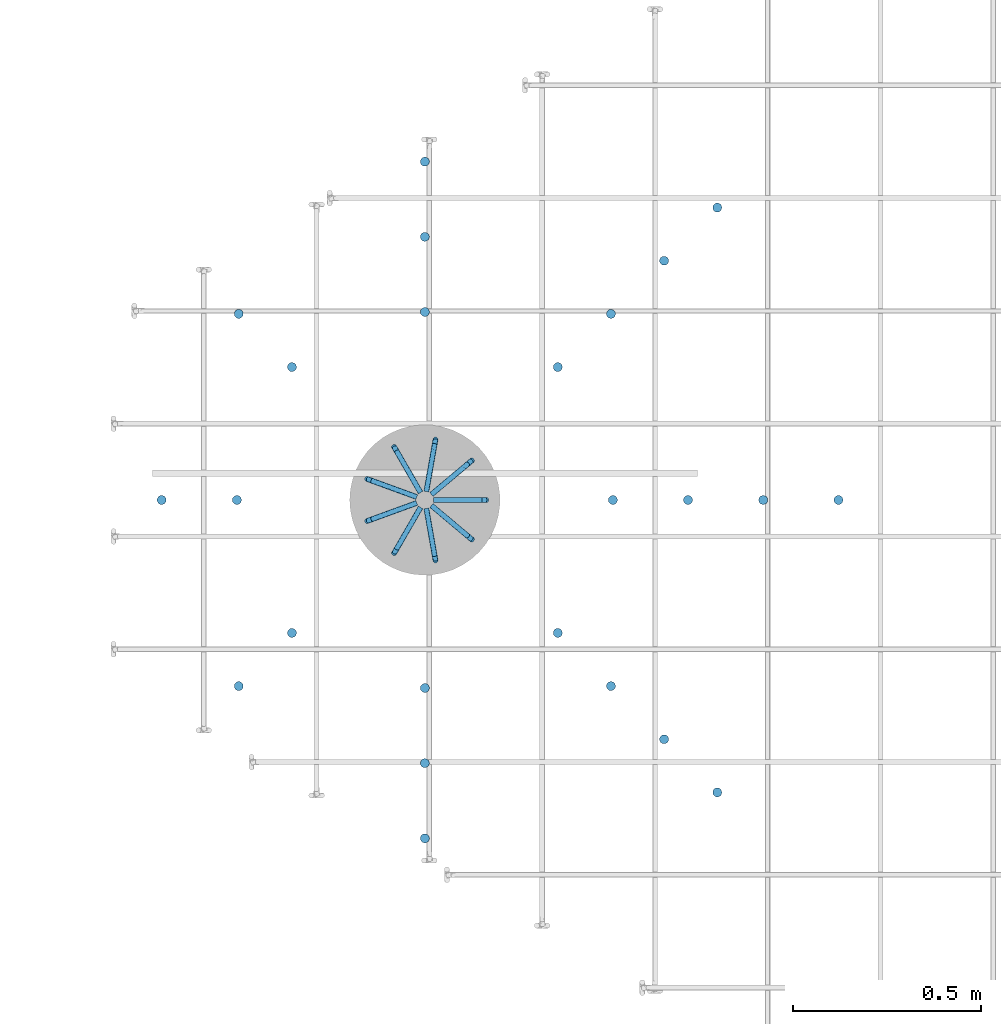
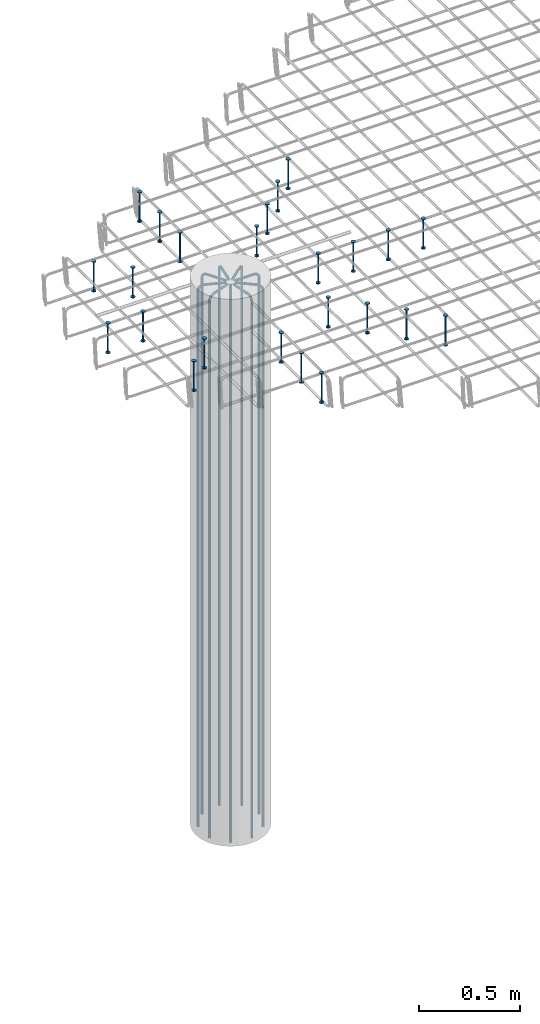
# One storey, part 19 of 24: 2 reinforcing bars.
"""IFC2X3 building model written with IfcOpenShell, lengths in metres."""

from ifc_helpers import new_model, entity, si_unit, direction, frame, origin, place, context, subcontext, project, spatial, shape, source, transform, mapped, element, save


model = new_model("IFC2X3")

# Units and contexts
model_context = context("Model", 3, precision=0.0, world=origin(), true_north=direction((0.0, 1.0)))
plan_context = context("Plan", 3, precision=0.0, world=origin(), true_north=direction((0.0, 1.0)))
body_context = subcontext(model_context, "Body", "Model", "MODEL_VIEW", scale=1.0)
ifc_project = project(units=[si_unit("LENGTHUNIT", "METRE"), si_unit("AREAUNIT", "SQUARE_METRE"), si_unit("VOLUMEUNIT", "CUBIC_METRE"), si_unit("PLANEANGLEUNIT", "RADIAN"), si_unit("THERMODYNAMICTEMPERATUREUNIT", "DEGREE_CELSIUS"), si_unit("FORCEUNIT", "NEWTON"), si_unit("MASSUNIT", "GRAM", prefix="KILO")], contexts=[model_context, plan_context])

# Site, building, storey
placement = place(None, origin())
site = spatial("IfcSite", under=ifc_project, at=placement, Name="Default Site", CompositionType="ELEMENT")
building = spatial("IfcBuilding", under=site, at=placement, Name="Default Building", CompositionType="ELEMENT")
storey_placement = place(placement, frame((0.0, 0.0, 3.3), z_axis=(1.0, 0.0, 0.0), x_axis=(0.0, 0.0, 1.0)))
storey = spatial("IfcBuildingStorey", under=building, at=storey_placement, Name="Piano 2", CompositionType="ELEMENT", Elevation=3.3)

# Reinforcing bars
shared_shape_1 = source(origin(), body_context, None, "AdvancedSweptSolid", [
    entity("IfcSweptDiskSolid", entity("IfcCompositeCurve", [entity("IfcCompositeCurveSegment", "CONTINUOUS", True, entity("IfcPolyline", [entity("IfcCartesianPoint", [0.0, 0.0, 0.0]), entity("IfcCartesianPoint", [0.0, 0.0, 3.237]), entity("IfcCartesianPoint", [-0.003751, 0.0, 3.251]), entity("IfcCartesianPoint", [-0.014, 0.0, 3.261249]), entity("IfcCartesianPoint", [-0.028, 0.0, 3.265]), entity("IfcCartesianPoint", [-0.14, 0.0, 3.265])]))], False), 0.007, 0.0, 0.0),
])
shared_shape_2 = source(origin(), body_context, None, "MappedRepresentation", [mapped(shared_shape_1, transform((22.162754, 3.0, 0.0)))])
shared_shape_3 = source(origin(), body_context, None, "AdvancedSweptSolid", [
    entity("IfcSweptDiskSolid", entity("IfcCompositeCurve", [entity("IfcCompositeCurveSegment", "CONTINUOUS", True, entity("IfcPolyline", [entity("IfcCartesianPoint", [0.0, 0.0, 0.0]), entity("IfcCartesianPoint", [0.0, 0.0, 3.237]), entity("IfcCartesianPoint", [-0.002874, -0.002411, 3.251]), entity("IfcCartesianPoint", [-0.010725, -0.008999, 3.261249]), entity("IfcCartesianPoint", [-0.021449, -0.017998, 3.265]), entity("IfcCartesianPoint", [-0.107246, -0.08999, 3.265])]))], False), 0.007, 0.0, 0.0),
])
shared_shape_4 = source(origin(), body_context, None, "MappedRepresentation", [mapped(shared_shape_3, transform((22.124677, 3.104616, 0.0)))])
shared_shape_5 = source(origin(), body_context, None, "AdvancedSweptSolid", [
    entity("IfcSweptDiskSolid", entity("IfcCompositeCurve", [entity("IfcCompositeCurveSegment", "CONTINUOUS", True, entity("IfcPolyline", [entity("IfcCartesianPoint", [0.0, 0.0, 0.0]), entity("IfcCartesianPoint", [0.0, 0.0, 3.237]), entity("IfcCartesianPoint", [-0.000651, -0.003694, 3.251]), entity("IfcCartesianPoint", [-0.002431, -0.013787, 3.261249]), entity("IfcCartesianPoint", [-0.004862, -0.027575, 3.265]), entity("IfcCartesianPoint", [-0.024311, -0.137873, 3.265])]))], False), 0.007, 0.0, 0.0),
])
shared_shape_6 = source(origin(), body_context, None, "MappedRepresentation", [mapped(shared_shape_5, transform((22.028262, 3.160281, 0.0)))])
shared_shape_7 = source(origin(), body_context, None, "AdvancedSweptSolid", [
    entity("IfcSweptDiskSolid", entity("IfcCompositeCurve", [entity("IfcCompositeCurveSegment", "CONTINUOUS", True, entity("IfcPolyline", [entity("IfcCartesianPoint", [0.0, 0.0, 0.0]), entity("IfcCartesianPoint", [0.0, 0.0, 3.237]), entity("IfcCartesianPoint", [0.001876, -0.003249, 3.251]), entity("IfcCartesianPoint", [0.007, -0.012124, 3.261249]), entity("IfcCartesianPoint", [0.014, -0.024249, 3.265]), entity("IfcCartesianPoint", [0.07, -0.121244, 3.265])]))], False), 0.007, 0.0, 0.0),
])
shared_shape_8 = source(origin(), body_context, None, "MappedRepresentation", [mapped(shared_shape_7, transform((21.918623, 3.140949, 0.0)))])
shared_shape_9 = source(origin(), body_context, None, "AdvancedSweptSolid", [
    entity("IfcSweptDiskSolid", entity("IfcCompositeCurve", [entity("IfcCompositeCurveSegment", "CONTINUOUS", True, entity("IfcPolyline", [entity("IfcCartesianPoint", [0.0, 0.0, 0.0]), entity("IfcCartesianPoint", [0.0, 0.0, 3.237]), entity("IfcCartesianPoint", [0.003525, -0.001283, 3.251]), entity("IfcCartesianPoint", [0.013156, -0.004788, 3.261249]), entity("IfcCartesianPoint", [0.026311, -0.009577, 3.265]), entity("IfcCartesianPoint", [0.131557, -0.047883, 3.265])]))], False), 0.007, 0.0, 0.0),
])
shared_shape_10 = source(origin(), body_context, None, "MappedRepresentation", [mapped(shared_shape_9, transform((21.847061, 3.055665, 0.0)))])
shared_shape_11 = source(origin(), body_context, None, "AdvancedSweptSolid", [
    entity("IfcSweptDiskSolid", entity("IfcCompositeCurve", [entity("IfcCompositeCurveSegment", "CONTINUOUS", True, entity("IfcPolyline", [entity("IfcCartesianPoint", [0.0, 0.0, 0.0]), entity("IfcCartesianPoint", [0.0, 0.0, 3.237]), entity("IfcCartesianPoint", [0.003525, 0.001283, 3.251]), entity("IfcCartesianPoint", [0.013156, 0.004788, 3.261249]), entity("IfcCartesianPoint", [0.026311, 0.009577, 3.265]), entity("IfcCartesianPoint", [0.131557, 0.047883, 3.265])]))], False), 0.007, 0.0, 0.0),
])
shared_shape_12 = source(origin(), body_context, None, "MappedRepresentation", [mapped(shared_shape_11, transform((21.847061, 2.944335, 0.0)))])
shared_shape_13 = source(origin(), body_context, None, "AdvancedSweptSolid", [
    entity("IfcSweptDiskSolid", entity("IfcCompositeCurve", [entity("IfcCompositeCurveSegment", "CONTINUOUS", True, entity("IfcPolyline", [entity("IfcCartesianPoint", [0.0, 0.0, 0.0]), entity("IfcCartesianPoint", [0.0, 0.0, 3.237]), entity("IfcCartesianPoint", [0.001876, 0.003249, 3.251]), entity("IfcCartesianPoint", [0.007, 0.012124, 3.261249]), entity("IfcCartesianPoint", [0.014, 0.024249, 3.265]), entity("IfcCartesianPoint", [0.07, 0.121244, 3.265])]))], False), 0.007, 0.0, 0.0),
])
shared_shape_14 = source(origin(), body_context, None, "MappedRepresentation", [mapped(shared_shape_13, transform((21.918623, 2.859051, 0.0)))])
shared_shape_15 = source(origin(), body_context, None, "AdvancedSweptSolid", [
    entity("IfcSweptDiskSolid", entity("IfcCompositeCurve", [entity("IfcCompositeCurveSegment", "CONTINUOUS", True, entity("IfcPolyline", [entity("IfcCartesianPoint", [0.0, 0.0, 0.0]), entity("IfcCartesianPoint", [0.0, 0.0, 3.237]), entity("IfcCartesianPoint", [-0.000651, 0.003694, 3.251]), entity("IfcCartesianPoint", [-0.002431, 0.013787, 3.261249]), entity("IfcCartesianPoint", [-0.004862, 0.027575, 3.265]), entity("IfcCartesianPoint", [-0.024311, 0.137873, 3.265])]))], False), 0.007, 0.0, 0.0),
])
shared_shape_16 = source(origin(), body_context, None, "MappedRepresentation", [mapped(shared_shape_15, transform((22.028262, 2.839719, 0.0)))])
shared_shape_17 = source(origin(), body_context, None, "AdvancedSweptSolid", [
    entity("IfcSweptDiskSolid", entity("IfcCompositeCurve", [entity("IfcCompositeCurveSegment", "CONTINUOUS", True, entity("IfcPolyline", [entity("IfcCartesianPoint", [0.0, 0.0, 0.0]), entity("IfcCartesianPoint", [0.0, 0.0, 3.237]), entity("IfcCartesianPoint", [-0.002874, 0.002411, 3.251]), entity("IfcCartesianPoint", [-0.010725, 0.008999, 3.261249]), entity("IfcCartesianPoint", [-0.021449, 0.017998, 3.265]), entity("IfcCartesianPoint", [-0.107246, 0.08999, 3.265])]))], False), 0.007, 0.0, 0.0),
])
shared_shape_18 = source(origin(), body_context, None, "MappedRepresentation", [mapped(shared_shape_17, transform((22.124677, 2.895384, 0.0)))])
element("IfcReinforcingBar", 1, at=placement, inside=storey, Name="Arm Principale; Pilastro:17 [Piano:2]", BarLength=30.544853, BarRole="MAIN", BarSurface="TEXTURED", NominalDiameter=0.014, shapes=[
    shape(body_context, None, "MappedRepresentation", [mapped(shared_shape_2, transform((0.0, 0.0, 0.0))), mapped(shared_shape_4, transform((0.0, 0.0, 0.0))), mapped(shared_shape_6, transform((0.0, 0.0, 0.0))), mapped(shared_shape_8, transform((0.0, 0.0, 0.0))), mapped(shared_shape_10, transform((0.0, 0.0, 0.0))), mapped(shared_shape_12, transform((0.0, 0.0, 0.0))), mapped(shared_shape_14, transform((0.0, 0.0, 0.0))), mapped(shared_shape_16, transform((0.0, 0.0, 0.0))), mapped(shared_shape_18, transform((0.0, 0.0, 0.0)))]),
])
shared_shape_19 = source(origin(), body_context, None, "AdvancedSweptSolid", [
    entity("IfcSweptDiskSolid", entity("IfcCompositeCurve", [entity("IfcCompositeCurveSegment", "CONTINUOUS", True, entity("IfcPolyline", [entity("IfcCartesianPoint", [0.0, 0.0, 0.0]), entity("IfcCartesianPoint", [0.0, 0.0, -0.174])]))], False), 0.004, 0.0, 0.0),
    entity("IfcSweptDiskSolid", entity("IfcCompositeCurve", [entity("IfcCompositeCurveSegment", "CONTINUOUS", True, entity("IfcPolyline", [entity("IfcCartesianPoint", [0.0, 0.0, 0.0]), entity("IfcCartesianPoint", [0.0, 0.0, 0.004])]))], False), 0.012, 0.0, 0.0),
    entity("IfcSweptDiskSolid", entity("IfcCompositeCurve", [entity("IfcCompositeCurveSegment", "CONTINUOUS", True, entity("IfcPolyline", [entity("IfcCartesianPoint", [0.0, 0.0, -0.174]), entity("IfcCartesianPoint", [0.0, 0.0, -0.178])]))], False), 0.012, 0.0, 0.0),
])
shared_shape_20 = source(origin(), body_context, None, "MappedRepresentation", [mapped(shared_shape_19, transform((22.5, 3.0, 3.262)))])
shared_shape_21 = source(origin(), body_context, None, "AdvancedSweptSolid", [
    entity("IfcSweptDiskSolid", entity("IfcCompositeCurve", [entity("IfcCompositeCurveSegment", "CONTINUOUS", True, entity("IfcPolyline", [entity("IfcCartesianPoint", [0.0, 0.0, 0.0]), entity("IfcCartesianPoint", [0.0, 0.0, -0.174])]))], False), 0.004, 0.0, 0.0),
    entity("IfcSweptDiskSolid", entity("IfcCompositeCurve", [entity("IfcCompositeCurveSegment", "CONTINUOUS", True, entity("IfcPolyline", [entity("IfcCartesianPoint", [0.0, 0.0, 0.0]), entity("IfcCartesianPoint", [0.0, 0.0, 0.004])]))], False), 0.012, 0.0, 0.0),
    entity("IfcSweptDiskSolid", entity("IfcCompositeCurve", [entity("IfcCompositeCurveSegment", "CONTINUOUS", True, entity("IfcPolyline", [entity("IfcCartesianPoint", [0.0, 0.0, -0.174]), entity("IfcCartesianPoint", [0.0, 0.0, -0.178])]))], False), 0.012, 0.0, 0.0),
])
shared_shape_22 = source(origin(), body_context, None, "MappedRepresentation", [mapped(shared_shape_21, transform((22.353553, 3.353553, 3.262)))])
shared_shape_23 = source(origin(), body_context, None, "AdvancedSweptSolid", [
    entity("IfcSweptDiskSolid", entity("IfcCompositeCurve", [entity("IfcCompositeCurveSegment", "CONTINUOUS", True, entity("IfcPolyline", [entity("IfcCartesianPoint", [0.0, 0.0, 0.0]), entity("IfcCartesianPoint", [0.0, 0.0, -0.174])]))], False), 0.004, 0.0, 0.0),
    entity("IfcSweptDiskSolid", entity("IfcCompositeCurve", [entity("IfcCompositeCurveSegment", "CONTINUOUS", True, entity("IfcPolyline", [entity("IfcCartesianPoint", [0.0, 0.0, 0.0]), entity("IfcCartesianPoint", [0.0, 0.0, 0.004])]))], False), 0.012, 0.0, 0.0),
    entity("IfcSweptDiskSolid", entity("IfcCompositeCurve", [entity("IfcCompositeCurveSegment", "CONTINUOUS", True, entity("IfcPolyline", [entity("IfcCartesianPoint", [0.0, 0.0, -0.174]), entity("IfcCartesianPoint", [0.0, 0.0, -0.178])]))], False), 0.012, 0.0, 0.0),
])
shared_shape_24 = source(origin(), body_context, None, "MappedRepresentation", [mapped(shared_shape_23, transform((22.0, 3.5, 3.262)))])
shared_shape_25 = source(origin(), body_context, None, "AdvancedSweptSolid", [
    entity("IfcSweptDiskSolid", entity("IfcCompositeCurve", [entity("IfcCompositeCurveSegment", "CONTINUOUS", True, entity("IfcPolyline", [entity("IfcCartesianPoint", [0.0, 0.0, 0.0]), entity("IfcCartesianPoint", [0.0, 0.0, -0.174])]))], False), 0.004, 0.0, 0.0),
    entity("IfcSweptDiskSolid", entity("IfcCompositeCurve", [entity("IfcCompositeCurveSegment", "CONTINUOUS", True, entity("IfcPolyline", [entity("IfcCartesianPoint", [0.0, 0.0, 0.0]), entity("IfcCartesianPoint", [0.0, 0.0, 0.004])]))], False), 0.012, 0.0, 0.0),
    entity("IfcSweptDiskSolid", entity("IfcCompositeCurve", [entity("IfcCompositeCurveSegment", "CONTINUOUS", True, entity("IfcPolyline", [entity("IfcCartesianPoint", [0.0, 0.0, -0.174]), entity("IfcCartesianPoint", [0.0, 0.0, -0.178])]))], False), 0.012, 0.0, 0.0),
])
shared_shape_26 = source(origin(), body_context, None, "MappedRepresentation", [mapped(shared_shape_25, transform((21.646447, 3.353553, 3.262)))])
shared_shape_27 = source(origin(), body_context, None, "AdvancedSweptSolid", [
    entity("IfcSweptDiskSolid", entity("IfcCompositeCurve", [entity("IfcCompositeCurveSegment", "CONTINUOUS", True, entity("IfcPolyline", [entity("IfcCartesianPoint", [0.0, 0.0, 0.0]), entity("IfcCartesianPoint", [0.0, 0.0, -0.174])]))], False), 0.004, 0.0, 0.0),
    entity("IfcSweptDiskSolid", entity("IfcCompositeCurve", [entity("IfcCompositeCurveSegment", "CONTINUOUS", True, entity("IfcPolyline", [entity("IfcCartesianPoint", [0.0, 0.0, 0.0]), entity("IfcCartesianPoint", [0.0, 0.0, 0.004])]))], False), 0.012, 0.0, 0.0),
    entity("IfcSweptDiskSolid", entity("IfcCompositeCurve", [entity("IfcCompositeCurveSegment", "CONTINUOUS", True, entity("IfcPolyline", [entity("IfcCartesianPoint", [0.0, 0.0, -0.174]), entity("IfcCartesianPoint", [0.0, 0.0, -0.178])]))], False), 0.012, 0.0, 0.0),
])
shared_shape_28 = source(origin(), body_context, None, "MappedRepresentation", [mapped(shared_shape_27, transform((21.5, 3.0, 3.262)))])
shared_shape_29 = source(origin(), body_context, None, "AdvancedSweptSolid", [
    entity("IfcSweptDiskSolid", entity("IfcCompositeCurve", [entity("IfcCompositeCurveSegment", "CONTINUOUS", True, entity("IfcPolyline", [entity("IfcCartesianPoint", [0.0, 0.0, 0.0]), entity("IfcCartesianPoint", [0.0, 0.0, -0.174])]))], False), 0.004, 0.0, 0.0),
    entity("IfcSweptDiskSolid", entity("IfcCompositeCurve", [entity("IfcCompositeCurveSegment", "CONTINUOUS", True, entity("IfcPolyline", [entity("IfcCartesianPoint", [0.0, 0.0, 0.0]), entity("IfcCartesianPoint", [0.0, 0.0, 0.004])]))], False), 0.012, 0.0, 0.0),
    entity("IfcSweptDiskSolid", entity("IfcCompositeCurve", [entity("IfcCompositeCurveSegment", "CONTINUOUS", True, entity("IfcPolyline", [entity("IfcCartesianPoint", [0.0, 0.0, -0.174]), entity("IfcCartesianPoint", [0.0, 0.0, -0.178])]))], False), 0.012, 0.0, 0.0),
])
shared_shape_30 = source(origin(), body_context, None, "MappedRepresentation", [mapped(shared_shape_29, transform((21.646447, 2.646447, 3.262)))])
shared_shape_31 = source(origin(), body_context, None, "AdvancedSweptSolid", [
    entity("IfcSweptDiskSolid", entity("IfcCompositeCurve", [entity("IfcCompositeCurveSegment", "CONTINUOUS", True, entity("IfcPolyline", [entity("IfcCartesianPoint", [0.0, 0.0, 0.0]), entity("IfcCartesianPoint", [0.0, 0.0, -0.174])]))], False), 0.004, 0.0, 0.0),
    entity("IfcSweptDiskSolid", entity("IfcCompositeCurve", [entity("IfcCompositeCurveSegment", "CONTINUOUS", True, entity("IfcPolyline", [entity("IfcCartesianPoint", [0.0, 0.0, 0.0]), entity("IfcCartesianPoint", [0.0, 0.0, 0.004])]))], False), 0.012, 0.0, 0.0),
    entity("IfcSweptDiskSolid", entity("IfcCompositeCurve", [entity("IfcCompositeCurveSegment", "CONTINUOUS", True, entity("IfcPolyline", [entity("IfcCartesianPoint", [0.0, 0.0, -0.174]), entity("IfcCartesianPoint", [0.0, 0.0, -0.178])]))], False), 0.012, 0.0, 0.0),
])
shared_shape_32 = source(origin(), body_context, None, "MappedRepresentation", [mapped(shared_shape_31, transform((22.0, 2.5, 3.262)))])
shared_shape_33 = source(origin(), body_context, None, "AdvancedSweptSolid", [
    entity("IfcSweptDiskSolid", entity("IfcCompositeCurve", [entity("IfcCompositeCurveSegment", "CONTINUOUS", True, entity("IfcPolyline", [entity("IfcCartesianPoint", [0.0, 0.0, 0.0]), entity("IfcCartesianPoint", [0.0, 0.0, -0.174])]))], False), 0.004, 0.0, 0.0),
    entity("IfcSweptDiskSolid", entity("IfcCompositeCurve", [entity("IfcCompositeCurveSegment", "CONTINUOUS", True, entity("IfcPolyline", [entity("IfcCartesianPoint", [0.0, 0.0, 0.0]), entity("IfcCartesianPoint", [0.0, 0.0, 0.004])]))], False), 0.012, 0.0, 0.0),
    entity("IfcSweptDiskSolid", entity("IfcCompositeCurve", [entity("IfcCompositeCurveSegment", "CONTINUOUS", True, entity("IfcPolyline", [entity("IfcCartesianPoint", [0.0, 0.0, -0.174]), entity("IfcCartesianPoint", [0.0, 0.0, -0.178])]))], False), 0.012, 0.0, 0.0),
])
shared_shape_34 = source(origin(), body_context, None, "MappedRepresentation", [mapped(shared_shape_33, transform((22.353553, 2.646447, 3.262)))])
shared_shape_35 = source(origin(), body_context, None, "AdvancedSweptSolid", [
    entity("IfcSweptDiskSolid", entity("IfcCompositeCurve", [entity("IfcCompositeCurveSegment", "CONTINUOUS", True, entity("IfcPolyline", [entity("IfcCartesianPoint", [0.0, 0.0, 0.0]), entity("IfcCartesianPoint", [0.0, 0.0, -0.174])]))], False), 0.004, 0.0, 0.0),
    entity("IfcSweptDiskSolid", entity("IfcCompositeCurve", [entity("IfcCompositeCurveSegment", "CONTINUOUS", True, entity("IfcPolyline", [entity("IfcCartesianPoint", [0.0, 0.0, 0.0]), entity("IfcCartesianPoint", [0.0, 0.0, 0.004])]))], False), 0.012, 0.0, 0.0),
    entity("IfcSweptDiskSolid", entity("IfcCompositeCurve", [entity("IfcCompositeCurveSegment", "CONTINUOUS", True, entity("IfcPolyline", [entity("IfcCartesianPoint", [0.0, 0.0, -0.174]), entity("IfcCartesianPoint", [0.0, 0.0, -0.178])]))], False), 0.012, 0.0, 0.0),
])
shared_shape_36 = source(origin(), body_context, None, "MappedRepresentation", [mapped(shared_shape_35, transform((22.7, 3.0, 3.262)))])
shared_shape_37 = source(origin(), body_context, None, "AdvancedSweptSolid", [
    entity("IfcSweptDiskSolid", entity("IfcCompositeCurve", [entity("IfcCompositeCurveSegment", "CONTINUOUS", True, entity("IfcPolyline", [entity("IfcCartesianPoint", [0.0, 0.0, 0.0]), entity("IfcCartesianPoint", [0.0, 0.0, -0.174])]))], False), 0.004, 0.0, 0.0),
    entity("IfcSweptDiskSolid", entity("IfcCompositeCurve", [entity("IfcCompositeCurveSegment", "CONTINUOUS", True, entity("IfcPolyline", [entity("IfcCartesianPoint", [0.0, 0.0, 0.0]), entity("IfcCartesianPoint", [0.0, 0.0, 0.004])]))], False), 0.012, 0.0, 0.0),
    entity("IfcSweptDiskSolid", entity("IfcCompositeCurve", [entity("IfcCompositeCurveSegment", "CONTINUOUS", True, entity("IfcPolyline", [entity("IfcCartesianPoint", [0.0, 0.0, -0.174]), entity("IfcCartesianPoint", [0.0, 0.0, -0.178])]))], False), 0.012, 0.0, 0.0),
])
shared_shape_38 = source(origin(), body_context, None, "MappedRepresentation", [mapped(shared_shape_37, transform((22.494975, 3.494975, 3.262)))])
shared_shape_39 = source(origin(), body_context, None, "AdvancedSweptSolid", [
    entity("IfcSweptDiskSolid", entity("IfcCompositeCurve", [entity("IfcCompositeCurveSegment", "CONTINUOUS", True, entity("IfcPolyline", [entity("IfcCartesianPoint", [0.0, 0.0, 0.0]), entity("IfcCartesianPoint", [0.0, 0.0, -0.174])]))], False), 0.004, 0.0, 0.0),
    entity("IfcSweptDiskSolid", entity("IfcCompositeCurve", [entity("IfcCompositeCurveSegment", "CONTINUOUS", True, entity("IfcPolyline", [entity("IfcCartesianPoint", [0.0, 0.0, 0.0]), entity("IfcCartesianPoint", [0.0, 0.0, 0.004])]))], False), 0.012, 0.0, 0.0),
    entity("IfcSweptDiskSolid", entity("IfcCompositeCurve", [entity("IfcCompositeCurveSegment", "CONTINUOUS", True, entity("IfcPolyline", [entity("IfcCartesianPoint", [0.0, 0.0, -0.174]), entity("IfcCartesianPoint", [0.0, 0.0, -0.178])]))], False), 0.012, 0.0, 0.0),
])
shared_shape_40 = source(origin(), body_context, None, "MappedRepresentation", [mapped(shared_shape_39, transform((22.0, 3.7, 3.262)))])
shared_shape_41 = source(origin(), body_context, None, "AdvancedSweptSolid", [
    entity("IfcSweptDiskSolid", entity("IfcCompositeCurve", [entity("IfcCompositeCurveSegment", "CONTINUOUS", True, entity("IfcPolyline", [entity("IfcCartesianPoint", [0.0, 0.0, 0.0]), entity("IfcCartesianPoint", [0.0, 0.0, -0.174])]))], False), 0.004, 0.0, 0.0),
    entity("IfcSweptDiskSolid", entity("IfcCompositeCurve", [entity("IfcCompositeCurveSegment", "CONTINUOUS", True, entity("IfcPolyline", [entity("IfcCartesianPoint", [0.0, 0.0, 0.0]), entity("IfcCartesianPoint", [0.0, 0.0, 0.004])]))], False), 0.012, 0.0, 0.0),
    entity("IfcSweptDiskSolid", entity("IfcCompositeCurve", [entity("IfcCompositeCurveSegment", "CONTINUOUS", True, entity("IfcPolyline", [entity("IfcCartesianPoint", [0.0, 0.0, -0.174]), entity("IfcCartesianPoint", [0.0, 0.0, -0.178])]))], False), 0.012, 0.0, 0.0),
])
shared_shape_42 = source(origin(), body_context, None, "MappedRepresentation", [mapped(shared_shape_41, transform((21.505025, 3.494975, 3.262)))])
shared_shape_43 = source(origin(), body_context, None, "AdvancedSweptSolid", [
    entity("IfcSweptDiskSolid", entity("IfcCompositeCurve", [entity("IfcCompositeCurveSegment", "CONTINUOUS", True, entity("IfcPolyline", [entity("IfcCartesianPoint", [0.0, 0.0, 0.0]), entity("IfcCartesianPoint", [0.0, 0.0, -0.174])]))], False), 0.004, 0.0, 0.0),
    entity("IfcSweptDiskSolid", entity("IfcCompositeCurve", [entity("IfcCompositeCurveSegment", "CONTINUOUS", True, entity("IfcPolyline", [entity("IfcCartesianPoint", [0.0, 0.0, 0.0]), entity("IfcCartesianPoint", [0.0, 0.0, 0.004])]))], False), 0.012, 0.0, 0.0),
    entity("IfcSweptDiskSolid", entity("IfcCompositeCurve", [entity("IfcCompositeCurveSegment", "CONTINUOUS", True, entity("IfcPolyline", [entity("IfcCartesianPoint", [0.0, 0.0, -0.174]), entity("IfcCartesianPoint", [0.0, 0.0, -0.178])]))], False), 0.012, 0.0, 0.0),
])
shared_shape_44 = source(origin(), body_context, None, "MappedRepresentation", [mapped(shared_shape_43, transform((21.3, 3.0, 3.262)))])
shared_shape_45 = source(origin(), body_context, None, "AdvancedSweptSolid", [
    entity("IfcSweptDiskSolid", entity("IfcCompositeCurve", [entity("IfcCompositeCurveSegment", "CONTINUOUS", True, entity("IfcPolyline", [entity("IfcCartesianPoint", [0.0, 0.0, 0.0]), entity("IfcCartesianPoint", [0.0, 0.0, -0.174])]))], False), 0.004, 0.0, 0.0),
    entity("IfcSweptDiskSolid", entity("IfcCompositeCurve", [entity("IfcCompositeCurveSegment", "CONTINUOUS", True, entity("IfcPolyline", [entity("IfcCartesianPoint", [0.0, 0.0, 0.0]), entity("IfcCartesianPoint", [0.0, 0.0, 0.004])]))], False), 0.012, 0.0, 0.0),
    entity("IfcSweptDiskSolid", entity("IfcCompositeCurve", [entity("IfcCompositeCurveSegment", "CONTINUOUS", True, entity("IfcPolyline", [entity("IfcCartesianPoint", [0.0, 0.0, -0.174]), entity("IfcCartesianPoint", [0.0, 0.0, -0.178])]))], False), 0.012, 0.0, 0.0),
])
shared_shape_46 = source(origin(), body_context, None, "MappedRepresentation", [mapped(shared_shape_45, transform((21.505025, 2.505025, 3.262)))])
shared_shape_47 = source(origin(), body_context, None, "AdvancedSweptSolid", [
    entity("IfcSweptDiskSolid", entity("IfcCompositeCurve", [entity("IfcCompositeCurveSegment", "CONTINUOUS", True, entity("IfcPolyline", [entity("IfcCartesianPoint", [0.0, 0.0, 0.0]), entity("IfcCartesianPoint", [0.0, 0.0, -0.174])]))], False), 0.004, 0.0, 0.0),
    entity("IfcSweptDiskSolid", entity("IfcCompositeCurve", [entity("IfcCompositeCurveSegment", "CONTINUOUS", True, entity("IfcPolyline", [entity("IfcCartesianPoint", [0.0, 0.0, 0.0]), entity("IfcCartesianPoint", [0.0, 0.0, 0.004])]))], False), 0.012, 0.0, 0.0),
    entity("IfcSweptDiskSolid", entity("IfcCompositeCurve", [entity("IfcCompositeCurveSegment", "CONTINUOUS", True, entity("IfcPolyline", [entity("IfcCartesianPoint", [0.0, 0.0, -0.174]), entity("IfcCartesianPoint", [0.0, 0.0, -0.178])]))], False), 0.012, 0.0, 0.0),
])
shared_shape_48 = source(origin(), body_context, None, "MappedRepresentation", [mapped(shared_shape_47, transform((22.0, 2.3, 3.262)))])
shared_shape_49 = source(origin(), body_context, None, "AdvancedSweptSolid", [
    entity("IfcSweptDiskSolid", entity("IfcCompositeCurve", [entity("IfcCompositeCurveSegment", "CONTINUOUS", True, entity("IfcPolyline", [entity("IfcCartesianPoint", [0.0, 0.0, 0.0]), entity("IfcCartesianPoint", [0.0, 0.0, -0.174])]))], False), 0.004, 0.0, 0.0),
    entity("IfcSweptDiskSolid", entity("IfcCompositeCurve", [entity("IfcCompositeCurveSegment", "CONTINUOUS", True, entity("IfcPolyline", [entity("IfcCartesianPoint", [0.0, 0.0, 0.0]), entity("IfcCartesianPoint", [0.0, 0.0, 0.004])]))], False), 0.012, 0.0, 0.0),
    entity("IfcSweptDiskSolid", entity("IfcCompositeCurve", [entity("IfcCompositeCurveSegment", "CONTINUOUS", True, entity("IfcPolyline", [entity("IfcCartesianPoint", [0.0, 0.0, -0.174]), entity("IfcCartesianPoint", [0.0, 0.0, -0.178])]))], False), 0.012, 0.0, 0.0),
])
shared_shape_50 = source(origin(), body_context, None, "MappedRepresentation", [mapped(shared_shape_49, transform((22.494975, 2.505025, 3.262)))])
shared_shape_51 = source(origin(), body_context, None, "AdvancedSweptSolid", [
    entity("IfcSweptDiskSolid", entity("IfcCompositeCurve", [entity("IfcCompositeCurveSegment", "CONTINUOUS", True, entity("IfcPolyline", [entity("IfcCartesianPoint", [0.0, 0.0, 0.0]), entity("IfcCartesianPoint", [0.0, 0.0, -0.174])]))], False), 0.004, 0.0, 0.0),
    entity("IfcSweptDiskSolid", entity("IfcCompositeCurve", [entity("IfcCompositeCurveSegment", "CONTINUOUS", True, entity("IfcPolyline", [entity("IfcCartesianPoint", [0.0, 0.0, 0.0]), entity("IfcCartesianPoint", [0.0, 0.0, 0.004])]))], False), 0.012, 0.0, 0.0),
    entity("IfcSweptDiskSolid", entity("IfcCompositeCurve", [entity("IfcCompositeCurveSegment", "CONTINUOUS", True, entity("IfcPolyline", [entity("IfcCartesianPoint", [0.0, 0.0, -0.174]), entity("IfcCartesianPoint", [0.0, 0.0, -0.178])]))], False), 0.012, 0.0, 0.0),
])
shared_shape_52 = source(origin(), body_context, None, "MappedRepresentation", [mapped(shared_shape_51, transform((22.9, 3.0, 3.262)))])
shared_shape_53 = source(origin(), body_context, None, "AdvancedSweptSolid", [
    entity("IfcSweptDiskSolid", entity("IfcCompositeCurve", [entity("IfcCompositeCurveSegment", "CONTINUOUS", True, entity("IfcPolyline", [entity("IfcCartesianPoint", [0.0, 0.0, 0.0]), entity("IfcCartesianPoint", [0.0, 0.0, -0.174])]))], False), 0.004, 0.0, 0.0),
    entity("IfcSweptDiskSolid", entity("IfcCompositeCurve", [entity("IfcCompositeCurveSegment", "CONTINUOUS", True, entity("IfcPolyline", [entity("IfcCartesianPoint", [0.0, 0.0, 0.0]), entity("IfcCartesianPoint", [0.0, 0.0, 0.004])]))], False), 0.012, 0.0, 0.0),
    entity("IfcSweptDiskSolid", entity("IfcCompositeCurve", [entity("IfcCompositeCurveSegment", "CONTINUOUS", True, entity("IfcPolyline", [entity("IfcCartesianPoint", [0.0, 0.0, -0.174]), entity("IfcCartesianPoint", [0.0, 0.0, -0.178])]))], False), 0.012, 0.0, 0.0),
])
shared_shape_54 = source(origin(), body_context, None, "MappedRepresentation", [mapped(shared_shape_53, transform((22.636396, 3.636396, 3.262)))])
shared_shape_55 = source(origin(), body_context, None, "AdvancedSweptSolid", [
    entity("IfcSweptDiskSolid", entity("IfcCompositeCurve", [entity("IfcCompositeCurveSegment", "CONTINUOUS", True, entity("IfcPolyline", [entity("IfcCartesianPoint", [0.0, 0.0, 0.0]), entity("IfcCartesianPoint", [0.0, 0.0, -0.174])]))], False), 0.004, 0.0, 0.0),
    entity("IfcSweptDiskSolid", entity("IfcCompositeCurve", [entity("IfcCompositeCurveSegment", "CONTINUOUS", True, entity("IfcPolyline", [entity("IfcCartesianPoint", [0.0, 0.0, 0.0]), entity("IfcCartesianPoint", [0.0, 0.0, 0.004])]))], False), 0.012, 0.0, 0.0),
    entity("IfcSweptDiskSolid", entity("IfcCompositeCurve", [entity("IfcCompositeCurveSegment", "CONTINUOUS", True, entity("IfcPolyline", [entity("IfcCartesianPoint", [0.0, 0.0, -0.174]), entity("IfcCartesianPoint", [0.0, 0.0, -0.178])]))], False), 0.012, 0.0, 0.0),
])
shared_shape_56 = source(origin(), body_context, None, "MappedRepresentation", [mapped(shared_shape_55, transform((22.0, 3.9, 3.262)))])
shared_shape_57 = source(origin(), body_context, None, "AdvancedSweptSolid", [
    entity("IfcSweptDiskSolid", entity("IfcCompositeCurve", [entity("IfcCompositeCurveSegment", "CONTINUOUS", True, entity("IfcPolyline", [entity("IfcCartesianPoint", [0.0, 0.0, 0.0]), entity("IfcCartesianPoint", [0.0, 0.0, -0.174])]))], False), 0.004, 0.0, 0.0),
    entity("IfcSweptDiskSolid", entity("IfcCompositeCurve", [entity("IfcCompositeCurveSegment", "CONTINUOUS", True, entity("IfcPolyline", [entity("IfcCartesianPoint", [0.0, 0.0, 0.0]), entity("IfcCartesianPoint", [0.0, 0.0, 0.004])]))], False), 0.012, 0.0, 0.0),
    entity("IfcSweptDiskSolid", entity("IfcCompositeCurve", [entity("IfcCompositeCurveSegment", "CONTINUOUS", True, entity("IfcPolyline", [entity("IfcCartesianPoint", [0.0, 0.0, -0.174]), entity("IfcCartesianPoint", [0.0, 0.0, -0.178])]))], False), 0.012, 0.0, 0.0),
])
shared_shape_58 = source(origin(), body_context, None, "MappedRepresentation", [mapped(shared_shape_57, transform((22.0, 2.1, 3.262)))])
shared_shape_59 = source(origin(), body_context, None, "AdvancedSweptSolid", [
    entity("IfcSweptDiskSolid", entity("IfcCompositeCurve", [entity("IfcCompositeCurveSegment", "CONTINUOUS", True, entity("IfcPolyline", [entity("IfcCartesianPoint", [0.0, 0.0, 0.0]), entity("IfcCartesianPoint", [0.0, 0.0, -0.174])]))], False), 0.004, 0.0, 0.0),
    entity("IfcSweptDiskSolid", entity("IfcCompositeCurve", [entity("IfcCompositeCurveSegment", "CONTINUOUS", True, entity("IfcPolyline", [entity("IfcCartesianPoint", [0.0, 0.0, 0.0]), entity("IfcCartesianPoint", [0.0, 0.0, 0.004])]))], False), 0.012, 0.0, 0.0),
    entity("IfcSweptDiskSolid", entity("IfcCompositeCurve", [entity("IfcCompositeCurveSegment", "CONTINUOUS", True, entity("IfcPolyline", [entity("IfcCartesianPoint", [0.0, 0.0, -0.174]), entity("IfcCartesianPoint", [0.0, 0.0, -0.178])]))], False), 0.012, 0.0, 0.0),
])
shared_shape_60 = source(origin(), body_context, None, "MappedRepresentation", [mapped(shared_shape_59, transform((22.636396, 2.363604, 3.262)))])
shared_shape_61 = source(origin(), body_context, None, "AdvancedSweptSolid", [
    entity("IfcSweptDiskSolid", entity("IfcCompositeCurve", [entity("IfcCompositeCurveSegment", "CONTINUOUS", True, entity("IfcPolyline", [entity("IfcCartesianPoint", [0.0, 0.0, 0.0]), entity("IfcCartesianPoint", [0.0, 0.0, -0.174])]))], False), 0.004, 0.0, 0.0),
    entity("IfcSweptDiskSolid", entity("IfcCompositeCurve", [entity("IfcCompositeCurveSegment", "CONTINUOUS", True, entity("IfcPolyline", [entity("IfcCartesianPoint", [0.0, 0.0, 0.0]), entity("IfcCartesianPoint", [0.0, 0.0, 0.004])]))], False), 0.012, 0.0, 0.0),
    entity("IfcSweptDiskSolid", entity("IfcCompositeCurve", [entity("IfcCompositeCurveSegment", "CONTINUOUS", True, entity("IfcPolyline", [entity("IfcCartesianPoint", [0.0, 0.0, -0.174]), entity("IfcCartesianPoint", [0.0, 0.0, -0.178])]))], False), 0.012, 0.0, 0.0),
])
shared_shape_62 = source(origin(), body_context, None, "MappedRepresentation", [mapped(shared_shape_61, transform((23.1, 3.0, 3.262)))])
shared_shape_63 = source(origin(), body_context, None, "AdvancedSweptSolid", [
    entity("IfcSweptDiskSolid", entity("IfcCompositeCurve", [entity("IfcCompositeCurveSegment", "CONTINUOUS", True, entity("IfcPolyline", [entity("IfcCartesianPoint", [0.0, 0.0, 0.0]), entity("IfcCartesianPoint", [0.0, 0.0, -0.174])]))], False), 0.004, 0.0, 0.0),
    entity("IfcSweptDiskSolid", entity("IfcCompositeCurve", [entity("IfcCompositeCurveSegment", "CONTINUOUS", True, entity("IfcPolyline", [entity("IfcCartesianPoint", [0.0, 0.0, 0.0]), entity("IfcCartesianPoint", [0.0, 0.0, 0.004])]))], False), 0.012, 0.0, 0.0),
    entity("IfcSweptDiskSolid", entity("IfcCompositeCurve", [entity("IfcCompositeCurveSegment", "CONTINUOUS", True, entity("IfcPolyline", [entity("IfcCartesianPoint", [0.0, 0.0, -0.174]), entity("IfcCartesianPoint", [0.0, 0.0, -0.178])]))], False), 0.012, 0.0, 0.0),
])
shared_shape_64 = source(origin(), body_context, None, "MappedRepresentation", [mapped(shared_shape_63, transform((22.777817, 3.777817, 3.262)))])
shared_shape_65 = source(origin(), body_context, None, "AdvancedSweptSolid", [
    entity("IfcSweptDiskSolid", entity("IfcCompositeCurve", [entity("IfcCompositeCurveSegment", "CONTINUOUS", True, entity("IfcPolyline", [entity("IfcCartesianPoint", [0.0, 0.0, 0.0]), entity("IfcCartesianPoint", [0.0, 0.0, -0.174])]))], False), 0.004, 0.0, 0.0),
    entity("IfcSweptDiskSolid", entity("IfcCompositeCurve", [entity("IfcCompositeCurveSegment", "CONTINUOUS", True, entity("IfcPolyline", [entity("IfcCartesianPoint", [0.0, 0.0, 0.0]), entity("IfcCartesianPoint", [0.0, 0.0, 0.004])]))], False), 0.012, 0.0, 0.0),
    entity("IfcSweptDiskSolid", entity("IfcCompositeCurve", [entity("IfcCompositeCurveSegment", "CONTINUOUS", True, entity("IfcPolyline", [entity("IfcCartesianPoint", [0.0, 0.0, -0.174]), entity("IfcCartesianPoint", [0.0, 0.0, -0.178])]))], False), 0.012, 0.0, 0.0),
])
shared_shape_66 = source(origin(), body_context, None, "MappedRepresentation", [mapped(shared_shape_65, transform((22.777817, 2.222183, 3.262)))])
element("IfcReinforcingBar", 2, at=placement, inside=storey, Name="Arm Punzonamento; MagaPiastra:1 [Piano:2]", BarLength=4.176, BarRole="PUNCHING", BarSurface="TEXTURED", NominalDiameter=0.008, shapes=[
    shape(body_context, None, "MappedRepresentation", [mapped(shared_shape_20, transform((0.0, 0.0, 0.0))), mapped(shared_shape_22, transform((0.0, 0.0, 0.0))), mapped(shared_shape_24, transform((0.0, 0.0, 0.0))), mapped(shared_shape_26, transform((0.0, 0.0, 0.0))), mapped(shared_shape_28, transform((0.0, 0.0, 0.0))), mapped(shared_shape_30, transform((0.0, 0.0, 0.0))), mapped(shared_shape_32, transform((0.0, 0.0, 0.0))), mapped(shared_shape_34, transform((0.0, 0.0, 0.0))), mapped(shared_shape_36, transform((0.0, 0.0, 0.0))), mapped(shared_shape_38, transform((0.0, 0.0, 0.0))), mapped(shared_shape_40, transform((0.0, 0.0, 0.0))), mapped(shared_shape_42, transform((0.0, 0.0, 0.0))), mapped(shared_shape_44, transform((0.0, 0.0, 0.0))), mapped(shared_shape_46, transform((0.0, 0.0, 0.0))), mapped(shared_shape_48, transform((0.0, 0.0, 0.0))), mapped(shared_shape_50, transform((0.0, 0.0, 0.0))), mapped(shared_shape_52, transform((0.0, 0.0, 0.0))), mapped(shared_shape_54, transform((0.0, 0.0, 0.0))), mapped(shared_shape_56, transform((0.0, 0.0, 0.0))), mapped(shared_shape_58, transform((0.0, 0.0, 0.0))), mapped(shared_shape_60, transform((0.0, 0.0, 0.0))), mapped(shared_shape_62, transform((0.0, 0.0, 0.0))), mapped(shared_shape_64, transform((0.0, 0.0, 0.0))), mapped(shared_shape_66, transform((0.0, 0.0, 0.0)))]),
])

save(model, "model.ifc")
